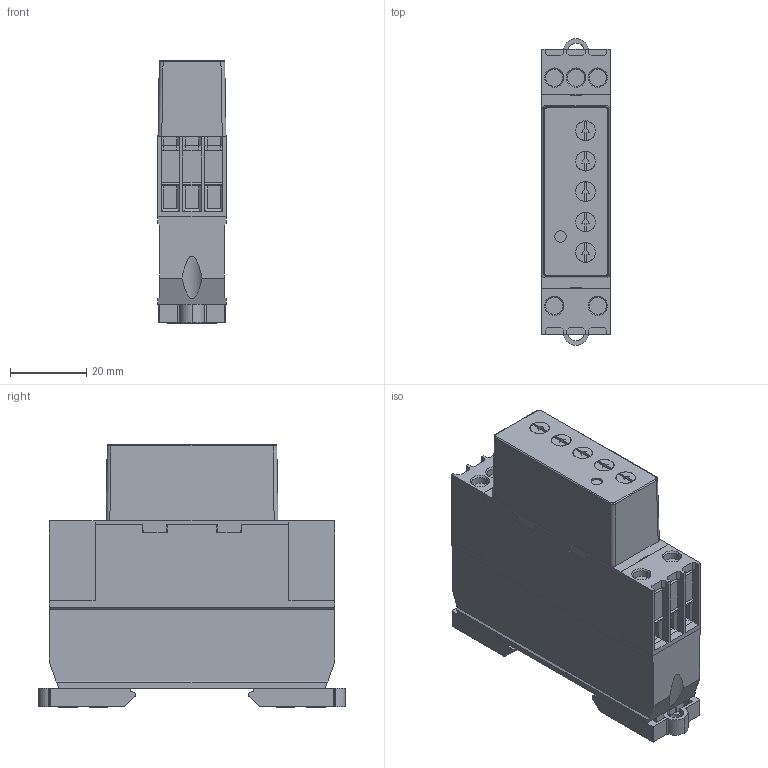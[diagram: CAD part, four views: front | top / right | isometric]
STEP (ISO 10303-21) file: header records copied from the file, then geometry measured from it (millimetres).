
FILE_DESCRIPTION (( 'STEP AP214' ), '1' );
FILE_NAME ('CIM3xR.STEP', '2024-04-04T09:47:44', ( '' ), ( '' ), 'SwSTEP 2.0', 'SolidWorks 2022', '' );
FILE_SCHEMA (( 'AUTOMOTIVE_DESIGN' ));
Length unit declared in the file: millimetre
Products named in the file (1): CIM3xR
Bounding box: 17.9 x 80.6 x 69 mm (x, y, z)
Volume: 72881.1 mm3; surface area: 18106.7 mm2
Topology: 1 solids, 6 shells, 619 faces, 1711 edges, 1098 vertices
Faces by surface type: plane 470, cylinder 95, cone 48, bspline 6
Entity records: 22294 total; most frequent: CARTESIAN_POINT 3789, ORIENTED_EDGE 3422, DIRECTION 3129, EDGE_CURVE 1711, VECTOR 1381, LINE 1381, VERTEX_POINT 1098, AXIS2_PLACEMENT_3D 874
